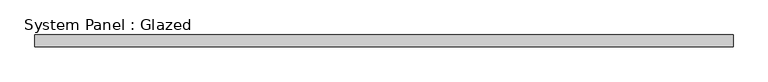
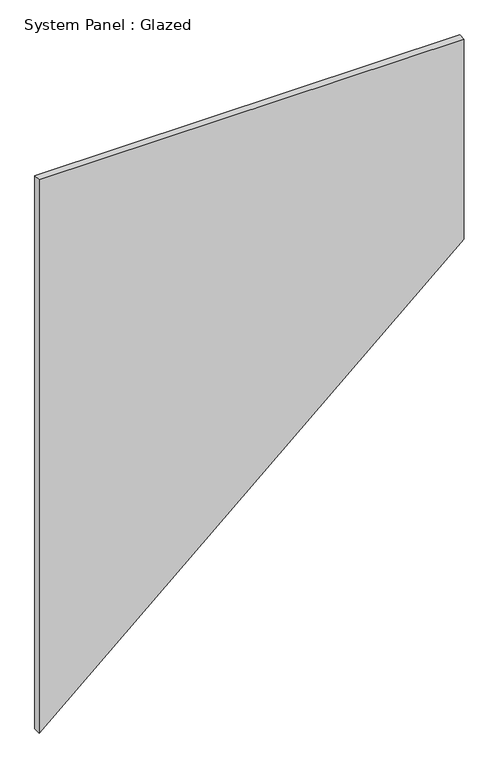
"""IFC4 building model written with IfcOpenShell, lengths in millimetres: plate geometry, System Panel : Glazed."""

from ifc_helpers import new_model, si_unit, frame, origin, place, context, project, spatial, polyline, outline, extrude, source, transform, mapped, element, save


def system_panel_glazed_e858782c(model_context):
    return source(origin(), model_context, "Body", "SweptSolid", [
        extrude(outline(polyline([(0.0, -735.8695652), (1290.3580977, 735.8695652), (2023.3686216, 735.8695652), (2023.3686216, -735.8695652), (0.0, -735.8695652)])), frame((0.0, 24.5, 0.0), z_axis=(0.0, 1.0, 0.0), x_axis=(0.0, 0.0, 1.0)), (0.0, 0.0, 1.0), 25.0),
    ])


if __name__ == "__main__":
    model = new_model("IFC4")
    model_context = context("Model", 3, world=origin())
    ifc_project = project(units=[si_unit("LENGTHUNIT", "METRE", prefix="MILLI")], contexts=[model_context])
    site = spatial("IfcSite", under=ifc_project)
    building = spatial("IfcBuilding", under=site)
    placement = place(None, origin())
    system_panel_glazed_shape = system_panel_glazed_e858782c(model_context)
    element("IfcPlate", 1, ObjectType="System Panel : Glazed", at=placement, inside=building, context=model_context, shape_type="MappedRepresentation", body=[
        mapped(system_panel_glazed_shape, transform((0.0, 0.0, 0.0), x_axis=(1.0, 0.0, 0.0), y_axis=(0.0, 1.0, 0.0), z_axis=(0.0, 0.0, 1.0))),
    ])
    save(model, "model.ifc")
